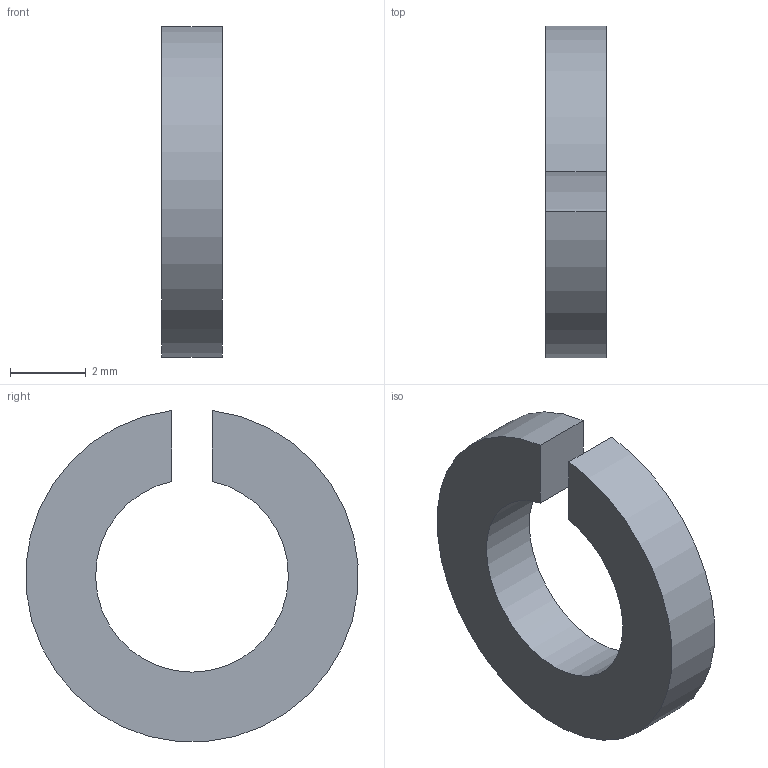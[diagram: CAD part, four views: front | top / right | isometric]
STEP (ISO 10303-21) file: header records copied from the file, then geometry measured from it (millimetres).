
FILE_DESCRIPTION (( 'STEP AP203' ), '1' );
FILE_NAME ('026 Rondelle Elastique.STEP', '2021-10-27T18:26:23', ( '' ), ( '' ), 'SwSTEP 2.0', 'SolidWorks 2019', '' );
FILE_SCHEMA (( 'CONFIG_CONTROL_DESIGN' ));
Length unit declared in the file: millimetre
Products named in the file (1): 026 Rondelle Elastique
Bounding box: 1.6 x 8.78 x 8.75 mm (x, y, z)
Volume: 61.5 mm3; surface area: 149.3 mm2
Topology: 1 solids, 1 shells, 6 faces, 12 edges, 8 vertices
Faces by surface type: plane 4, cylinder 2
Entity records: 237 total; most frequent: DIRECTION 30, CARTESIAN_POINT 27, ORIENTED_EDGE 24, EDGE_CURVE 12, AXIS2_PLACEMENT_3D 11, PERSON_AND_ORGANIZATION 8, VECTOR 8, LINE 8
